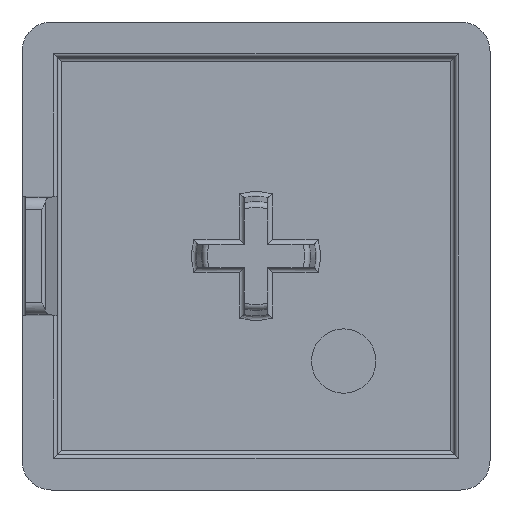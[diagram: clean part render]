
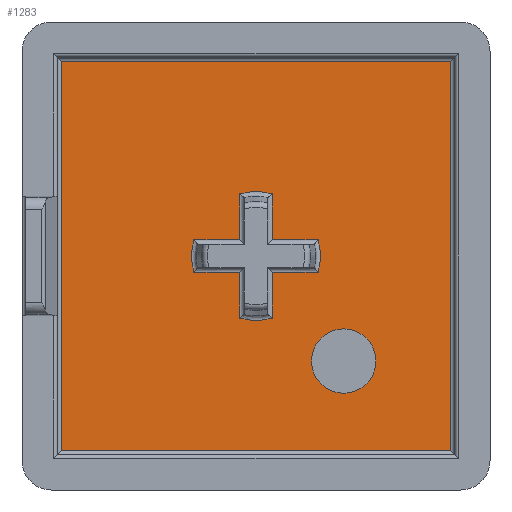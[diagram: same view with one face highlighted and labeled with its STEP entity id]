
A CAD part, front view. The second image highlights one B-rep face of the part: STEP entity #1283.
In plain terms, the highlighted planar face has unit normal (0, -1, 0).
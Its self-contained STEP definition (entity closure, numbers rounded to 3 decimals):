
#63=PLANE('',#1405);
#150=CIRCLE('',#1406,5.5);
#151=CIRCLE('',#1407,5.5);
#152=CIRCLE('',#1408,5.5);
#153=CIRCLE('',#1409,5.5);
#154=CIRCLE('',#1410,2.75);
#307=ORIENTED_EDGE('',*,*,#653,.T.);
#308=ORIENTED_EDGE('',*,*,#654,.T.);
#309=ORIENTED_EDGE('',*,*,#655,.T.);
#310=ORIENTED_EDGE('',*,*,#656,.T.);
#311=ORIENTED_EDGE('',*,*,#657,.T.);
#312=ORIENTED_EDGE('',*,*,#658,.T.);
#313=ORIENTED_EDGE('',*,*,#659,.T.);
#314=ORIENTED_EDGE('',*,*,#660,.T.);
#315=ORIENTED_EDGE('',*,*,#661,.T.);
#316=ORIENTED_EDGE('',*,*,#662,.T.);
#317=ORIENTED_EDGE('',*,*,#663,.T.);
#318=ORIENTED_EDGE('',*,*,#664,.T.);
#319=ORIENTED_EDGE('',*,*,#665,.T.);
#320=ORIENTED_EDGE('',*,*,#666,.T.);
#321=ORIENTED_EDGE('',*,*,#667,.T.);
#322=ORIENTED_EDGE('',*,*,#668,.T.);
#323=ORIENTED_EDGE('',*,*,#669,.T.);
#653=EDGE_CURVE('',#818,#819,#917,.T.);
#654=EDGE_CURVE('',#819,#820,#150,.T.);
#655=EDGE_CURVE('',#820,#821,#918,.T.);
#656=EDGE_CURVE('',#821,#822,#919,.T.);
#657=EDGE_CURVE('',#822,#823,#151,.T.);
#658=EDGE_CURVE('',#823,#824,#920,.T.);
#659=EDGE_CURVE('',#824,#825,#921,.T.);
#660=EDGE_CURVE('',#825,#826,#152,.T.);
#661=EDGE_CURVE('',#826,#827,#922,.T.);
#662=EDGE_CURVE('',#827,#828,#923,.T.);
#663=EDGE_CURVE('',#828,#829,#153,.T.);
#664=EDGE_CURVE('',#829,#818,#924,.T.);
#665=EDGE_CURVE('',#830,#830,#154,.T.);
#666=EDGE_CURVE('',#831,#832,#925,.F.);
#667=EDGE_CURVE('',#832,#833,#926,.F.);
#668=EDGE_CURVE('',#833,#834,#927,.F.);
#669=EDGE_CURVE('',#834,#831,#928,.F.);
#818=VERTEX_POINT('',#2126);
#819=VERTEX_POINT('',#2127);
#820=VERTEX_POINT('',#2129);
#821=VERTEX_POINT('',#2131);
#822=VERTEX_POINT('',#2133);
#823=VERTEX_POINT('',#2135);
#824=VERTEX_POINT('',#2137);
#825=VERTEX_POINT('',#2139);
#826=VERTEX_POINT('',#2141);
#827=VERTEX_POINT('',#2143);
#828=VERTEX_POINT('',#2145);
#829=VERTEX_POINT('',#2147);
#830=VERTEX_POINT('',#2150);
#831=VERTEX_POINT('',#2152);
#832=VERTEX_POINT('',#2153);
#833=VERTEX_POINT('',#2155);
#834=VERTEX_POINT('',#2157);
#917=LINE('',#2125,#1014);
#918=LINE('',#2130,#1015);
#919=LINE('',#2132,#1016);
#920=LINE('',#2136,#1017);
#921=LINE('',#2138,#1018);
#922=LINE('',#2142,#1019);
#923=LINE('',#2144,#1020);
#924=LINE('',#2148,#1021);
#925=LINE('',#2151,#1022);
#926=LINE('',#2154,#1023);
#927=LINE('',#2156,#1024);
#928=LINE('',#2158,#1025);
#1014=VECTOR('',#1663,1000.);
#1015=VECTOR('',#1666,1000.);
#1016=VECTOR('',#1667,1000.);
#1017=VECTOR('',#1670,1000.);
#1018=VECTOR('',#1671,1000.);
#1019=VECTOR('',#1674,1000.);
#1020=VECTOR('',#1675,1000.);
#1021=VECTOR('',#1678,1000.);
#1022=VECTOR('',#1681,1000.);
#1023=VECTOR('',#1682,1000.);
#1024=VECTOR('',#1683,1000.);
#1025=VECTOR('',#1684,1000.);
#1084=EDGE_LOOP('',(#307,#308,#309,#310,#311,#312,#313,#314,#315,#316,#317,
#318));
#1085=EDGE_LOOP('',(#319));
#1086=EDGE_LOOP('',(#320,#321,#322,#323));
#1167=FACE_BOUND('',#1084,.T.);
#1168=FACE_BOUND('',#1085,.T.);
#1169=FACE_BOUND('',#1086,.T.);
#1283=ADVANCED_FACE('',(#1167,#1168,#1169),#63,.F.);
#1405=AXIS2_PLACEMENT_3D('',#2124,#1661,#1662);
#1406=AXIS2_PLACEMENT_3D('',#2128,#1664,#1665);
#1407=AXIS2_PLACEMENT_3D('',#2134,#1668,#1669);
#1408=AXIS2_PLACEMENT_3D('',#2140,#1672,#1673);
#1409=AXIS2_PLACEMENT_3D('',#2146,#1676,#1677);
#1410=AXIS2_PLACEMENT_3D('',#2149,#1679,#1680);
#1661=DIRECTION('',(0.,1.,0.));
#1662=DIRECTION('',(0.,0.,1.));
#1663=DIRECTION('',(0.,0.,-1.));
#1664=DIRECTION('',(0.,1.,0.));
#1665=DIRECTION('',(0.,0.,1.));
#1666=DIRECTION('',(0.,0.,1.));
#1667=DIRECTION('',(-1.,0.,0.));
#1668=DIRECTION('',(0.,1.,0.));
#1669=DIRECTION('',(0.,0.,1.));
#1670=DIRECTION('',(1.,0.,0.));
#1671=DIRECTION('',(0.,0.,1.));
#1672=DIRECTION('',(0.,1.,0.));
#1673=DIRECTION('',(0.,0.,1.));
#1674=DIRECTION('',(0.,0.,-1.));
#1675=DIRECTION('',(1.,0.,0.));
#1676=DIRECTION('',(0.,1.,0.));
#1677=DIRECTION('',(0.,0.,1.));
#1678=DIRECTION('',(-1.,0.,0.));
#1679=DIRECTION('',(0.,1.,0.));
#1680=DIRECTION('',(1.,0.,0.));
#1681=DIRECTION('',(0.,0.,1.));
#1682=DIRECTION('',(-1.,0.,0.));
#1683=DIRECTION('',(0.,0.,-1.));
#1684=DIRECTION('',(1.,0.,0.));
#2124=CARTESIAN_POINT('',(0.,-3.,0.));
#2125=CARTESIAN_POINT('',(1.4,-3.,-5.001));
#2126=CARTESIAN_POINT('',(1.4,-3.,-1.4));
#2127=CARTESIAN_POINT('',(1.4,-3.,-5.319));
#2128=CARTESIAN_POINT('',(0.,-3.,0.));
#2129=CARTESIAN_POINT('',(-1.4,-3.,-5.319));
#2130=CARTESIAN_POINT('',(-1.4,-3.,-1.));
#2131=CARTESIAN_POINT('',(-1.4,-3.,-1.4));
#2132=CARTESIAN_POINT('',(-5.001,-3.,-1.4));
#2133=CARTESIAN_POINT('',(-5.319,-3.,-1.4));
#2134=CARTESIAN_POINT('',(0.,-3.,0.));
#2135=CARTESIAN_POINT('',(-5.319,-3.,1.4));
#2136=CARTESIAN_POINT('',(-1.,-3.,1.4));
#2137=CARTESIAN_POINT('',(-1.4,-3.,1.4));
#2138=CARTESIAN_POINT('',(-1.4,-3.,5.001));
#2139=CARTESIAN_POINT('',(-1.4,-3.,5.319));
#2140=CARTESIAN_POINT('',(0.,-3.,0.));
#2141=CARTESIAN_POINT('',(1.4,-3.,5.319));
#2142=CARTESIAN_POINT('',(1.4,-3.,1.));
#2143=CARTESIAN_POINT('',(1.4,-3.,1.4));
#2144=CARTESIAN_POINT('',(5.001,-3.,1.4));
#2145=CARTESIAN_POINT('',(5.319,-3.,1.4));
#2146=CARTESIAN_POINT('',(0.,-3.,0.));
#2147=CARTESIAN_POINT('',(5.319,-3.,-1.4));
#2148=CARTESIAN_POINT('',(1.,-3.,-1.4));
#2149=CARTESIAN_POINT('',(7.5,-3.,-8.98));
#2150=CARTESIAN_POINT('',(10.25,-3.,-8.98));
#2151=CARTESIAN_POINT('',(-16.585,-3.,0.));
#2152=CARTESIAN_POINT('',(-16.585,-3.,16.585));
#2153=CARTESIAN_POINT('',(-16.585,-3.,-16.585));
#2154=CARTESIAN_POINT('',(0.,-3.,-16.585));
#2155=CARTESIAN_POINT('',(16.585,-3.,-16.585));
#2156=CARTESIAN_POINT('',(16.585,-3.,0.));
#2157=CARTESIAN_POINT('',(16.585,-3.,16.585));
#2158=CARTESIAN_POINT('',(0.,-3.,16.585));
